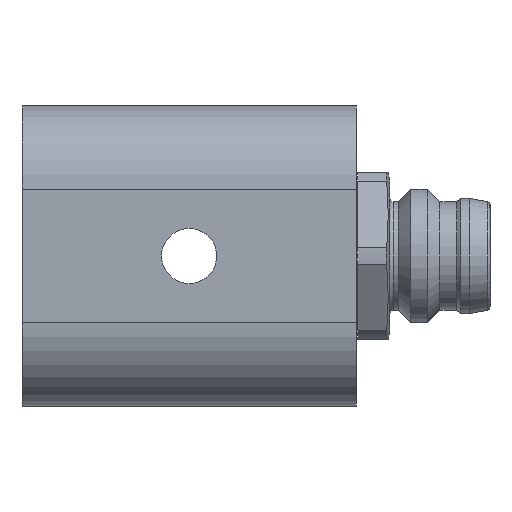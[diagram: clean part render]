
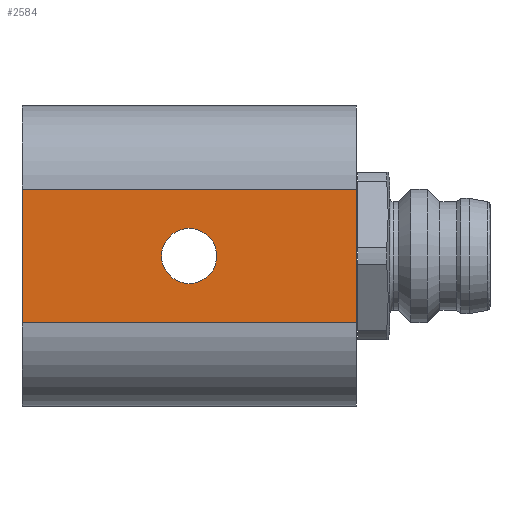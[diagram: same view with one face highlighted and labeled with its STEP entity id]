
A CAD part, left-side view. The second image highlights one B-rep face of the part: STEP entity #2584.
In plain terms, the highlighted planar face has unit normal (-1, 0, 0).
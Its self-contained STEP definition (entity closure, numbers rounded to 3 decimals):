
#51 = DIRECTION ( 'NONE',  ( 0., 0., -1. ) ) ;
#71 = ORIENTED_EDGE ( 'NONE', *, *, #3482, .F. ) ;
#201 = EDGE_CURVE ( 'NONE', #1233, #3608, #930, .T. ) ;
#282 = EDGE_CURVE ( 'NONE', #1424, #3608, #477, .T. ) ;
#477 = LINE ( 'NONE', #3105, #1361 ) ;
#588 = EDGE_CURVE ( 'NONE', #1424, #3470, #1106, .T. ) ;
#615 = CIRCLE ( 'NONE', #817, 1.65 ) ;
#682 = EDGE_LOOP ( 'NONE', ( #71 ) ) ;
#817 = AXIS2_PLACEMENT_3D ( 'NONE', #2780, #2426, #2130 ) ;
#930 = LINE ( 'NONE', #3211, #1022 ) ;
#966 = DIRECTION ( 'NONE',  ( 0., 0., -1. ) ) ;
#1022 = VECTOR ( 'NONE', #966, 1000. ) ;
#1106 = LINE ( 'NONE', #3390, #1408 ) ;
#1135 = CARTESIAN_POINT ( 'NONE',  ( -55., -1.7, 4. ) ) ;
#1233 = VERTEX_POINT ( 'NONE', #1135 ) ;
#1255 = FACE_OUTER_BOUND ( 'NONE', #3899, .T. ) ;
#1318 = PLANE ( 'NONE',  #3006 ) ;
#1361 = VECTOR ( 'NONE', #2788, 1000. ) ;
#1408 = VECTOR ( 'NONE', #2753, 1000. ) ;
#1424 = VERTEX_POINT ( 'NONE', #3940 ) ;
#1487 = DIRECTION ( 'NONE',  ( 0., 1., 0. ) ) ;
#1829 = ORIENTED_EDGE ( 'NONE', *, *, #3385, .T. ) ;
#1839 = CARTESIAN_POINT ( 'NONE',  ( -55., 18.3, 4. ) ) ;
#1976 = CARTESIAN_POINT ( 'NONE',  ( -55., 18.3, 9. ) ) ;
#2130 = DIRECTION ( 'NONE',  ( 0., 0., 1. ) ) ;
#2253 = FACE_BOUND ( 'NONE', #682, .T. ) ;
#2426 = DIRECTION ( 'NONE',  ( -1., 0., 0. ) ) ;
#2473 = ORIENTED_EDGE ( 'NONE', *, *, #201, .F. ) ;
#2584 = ADVANCED_FACE ( 'NONE', ( #2253, #1255 ), #1318, .F. ) ;
#2706 = CARTESIAN_POINT ( 'NONE',  ( -55., 18.3, 4. ) ) ;
#2753 = DIRECTION ( 'NONE',  ( 0., 0., 1. ) ) ;
#2780 = CARTESIAN_POINT ( 'NONE',  ( -55., 8.3, 0. ) ) ;
#2788 = DIRECTION ( 'NONE',  ( 0., -1., 0. ) ) ;
#2832 = VERTEX_POINT ( 'NONE', #3412 ) ;
#3006 = AXIS2_PLACEMENT_3D ( 'NONE', #1976, #3902, #51 ) ;
#3105 = CARTESIAN_POINT ( 'NONE',  ( -55., 18.3, -4. ) ) ;
#3118 = ORIENTED_EDGE ( 'NONE', *, *, #588, .F. ) ;
#3211 = CARTESIAN_POINT ( 'NONE',  ( -55., -1.7, -4. ) ) ;
#3212 = ORIENTED_EDGE ( 'NONE', *, *, #282, .T. ) ;
#3385 = EDGE_CURVE ( 'NONE', #1233, #3470, #3617, .T. ) ;
#3390 = CARTESIAN_POINT ( 'NONE',  ( -55., 18.3, 9. ) ) ;
#3412 = CARTESIAN_POINT ( 'NONE',  ( -55., 8.3, 1.65 ) ) ;
#3470 = VERTEX_POINT ( 'NONE', #1839 ) ;
#3482 = EDGE_CURVE ( 'NONE', #2832, #2832, #615, .T. ) ;
#3525 = VECTOR ( 'NONE', #1487, 1000. ) ;
#3608 = VERTEX_POINT ( 'NONE', #3904 ) ;
#3617 = LINE ( 'NONE', #2706, #3525 ) ;
#3899 = EDGE_LOOP ( 'NONE', ( #3118, #3212, #2473, #1829 ) ) ;
#3902 = DIRECTION ( 'NONE',  ( 1., 0., 0. ) ) ;
#3904 = CARTESIAN_POINT ( 'NONE',  ( -55., -1.7, -4. ) ) ;
#3940 = CARTESIAN_POINT ( 'NONE',  ( -55., 18.3, -4. ) ) ;
